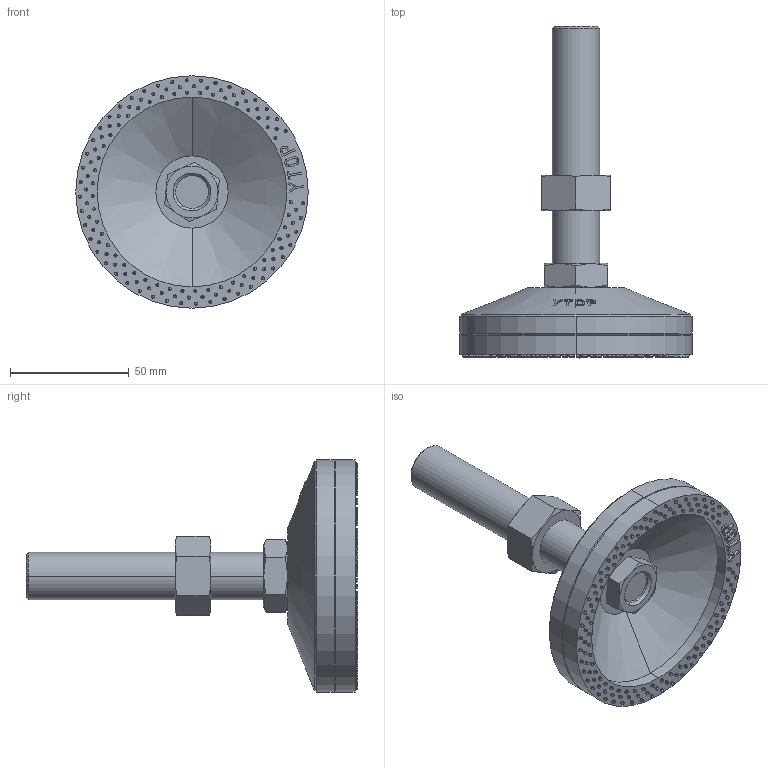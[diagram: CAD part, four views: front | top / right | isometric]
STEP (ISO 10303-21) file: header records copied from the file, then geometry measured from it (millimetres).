
FILE_DESCRIPTION (( 'STEP AP203' ), '1' );
FILE_NAME ('AH-100-20100-TPU.STEP', '2020-09-09T03:59:00', ( '' ), ( '' ), 'SwSTEP 2.0', 'SolidWorks 2016', '' );
FILE_SCHEMA (( 'CONFIG_CONTROL_DESIGN' ));
Length unit declared in the file: millimetre
Products named in the file (6): 脚垫调节六角螺母M20; 脚垫锁紧六角薄螺母M16; 傲郈蹟裝M20炵蹈_M20X100; AH-100-20100-TPU; AH-100蝶菜; AH-100菁釱
Assembly tree (5 placements, depth 2):
  AH-100-20100-TPU
    AH-100菁釱
    AH-100蝶菜
    傲郈蹟裝M20炵蹈_M20X100
    脚垫锁紧六角薄螺母M16
    脚垫调节六角螺母M20
Bounding box: 98 x 139.9 x 98 mm (x, y, z)
Volume: 156482.3 mm3; surface area: 52691.8 mm2
Topology: 5 solids, 5 shells, 723 faces, 2043 edges, 1215 vertices
Faces by surface type: cylinder 280, sphere 262, cone 66, plane 65, bspline 50
Entity records: 24946 total; most frequent: CARTESIAN_POINT 8540, DIRECTION 3559, ORIENTED_EDGE 3038, AXIS2_PLACEMENT_3D 1567, EDGE_CURVE 1519, VERTEX_POINT 953, CIRCLE 886, EDGE_LOOP 878
